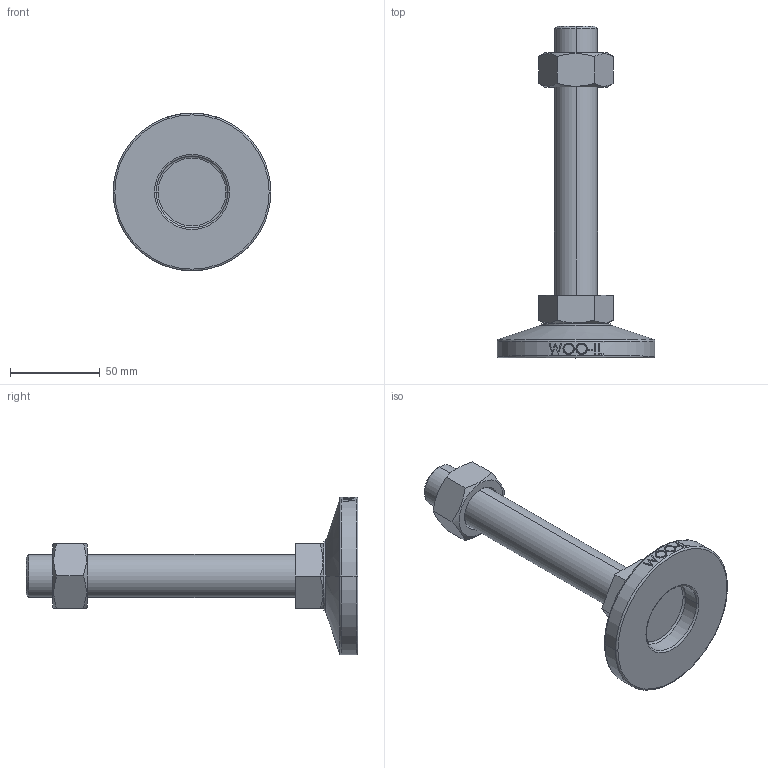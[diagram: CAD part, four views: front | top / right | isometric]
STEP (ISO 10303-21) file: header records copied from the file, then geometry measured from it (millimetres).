
FILE_DESCRIPTION (( 'STEP AP214' ), '1' );
FILE_NAME ('MFT88-M24-150.step', '2021-03-29T04:45:20', ( '' ), ( '' ), 'SwSTEP 2.0', 'SolidWorks 2019', '' );
FILE_SCHEMA (( 'AUTOMOTIVE_DESIGN' ));
Length unit declared in the file: millimetre
Products named in the file (2): MFT88-M24-150
Bounding box: 88 x 185 x 88 mm (x, y, z)
Volume: 173856.6 mm3; surface area: 36636.4 mm2
Topology: 3 solids, 3 shells, 106 faces, 247 edges, 158 vertices
Faces by surface type: plane 48, cylinder 18, bspline 16, cone 14, torus 10
Entity records: 4570 total; most frequent: CARTESIAN_POINT 2207, ORIENTED_EDGE 494, DIRECTION 439, EDGE_CURVE 247, AXIS2_PLACEMENT_3D 170, VERTEX_POINT 158, EDGE_LOOP 119, FACE_OUTER_BOUND 106
